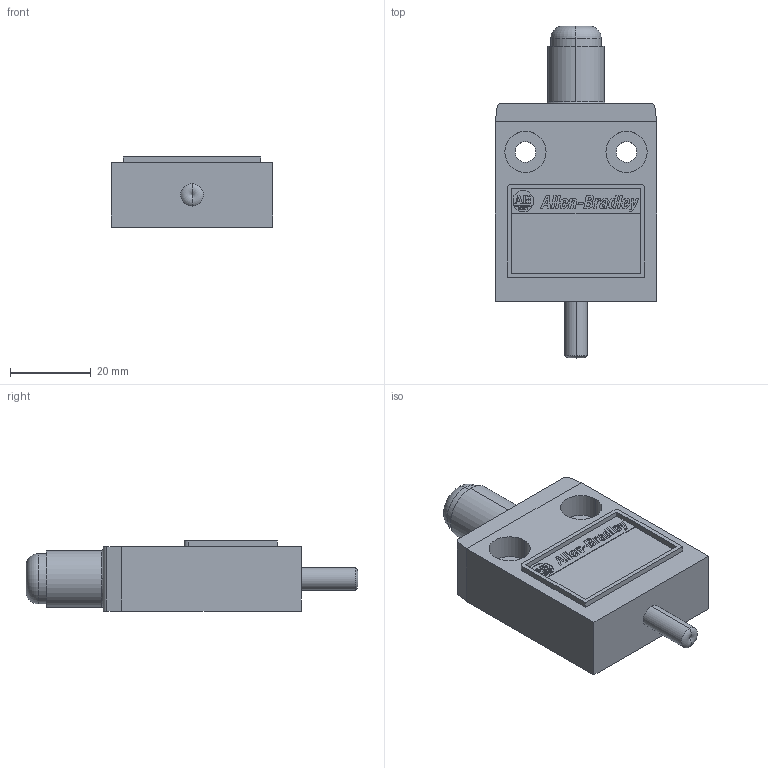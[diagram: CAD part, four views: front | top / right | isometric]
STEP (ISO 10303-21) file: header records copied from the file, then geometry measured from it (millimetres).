
FILE_DESCRIPTION (( 'STEP AP214' ), '1' );
FILE_NAME ('802B-CSABBSXD4.STEP', '2009-09-23T12:30:02', ( ' ' ), ( ' ' ), 'SwSTEP 2.0', 'SolidWorks 2007', '' );
FILE_SCHEMA (( 'AUTOMOTIVE_DESIGN' ));
Length unit declared in the file: millimetre
Products named in the file (1): 802B-CSABBSXD4
Bounding box: 40.07 x 82.27 x 17.4 mm (x, y, z)
Volume: 33271.2 mm3; surface area: 10306.7 mm2
Topology: 20 solids, 20 shells, 560 faces, 1538 edges, 1023 vertices
Faces by surface type: plane 536, cylinder 18, torus 6
Entity records: 23748 total; most frequent: CARTESIAN_POINT 3120, ORIENTED_EDGE 3072, DIRECTION 2706, EDGE_CURVE 1536, VECTOR 1488, LINE 1488, VERTEX_POINT 1023, AXIS2_PLACEMENT_3D 609
